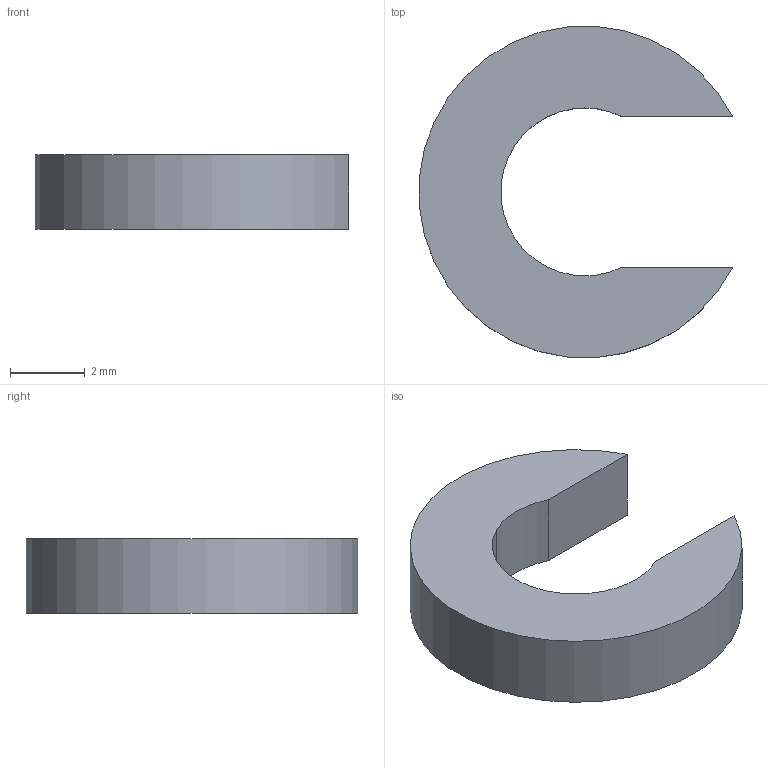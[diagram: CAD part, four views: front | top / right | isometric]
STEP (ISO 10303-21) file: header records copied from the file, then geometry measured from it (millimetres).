
FILE_DESCRIPTION(('Open CASCADE Model'),'2;1');
FILE_NAME('F09-CLIP5','2026-11-15T22:32:13',('Author'),('Open CASCADE'), 'Open CASCADE STEP processor 8.0','build123d','Unknown');
FILE_SCHEMA(('AUTOMOTIVE_DESIGN { 1 0 10303 214 1 1 1 1 }'));
Length unit declared in the file: millimetre
Products named in the file (1): F09-CLIP5
Bounding box: 8.4 x 8.88 x 2 mm (x, y, z)
Volume: 73.2 mm3; surface area: 150.8 mm2
Topology: 1 solids, 1 shells, 12 faces, 30 edges, 20 vertices
Faces by surface type: plane 8, cylinder 4
Entity records: 722 total; most frequent: CARTESIAN_POINT 163, DIRECTION 84, ORIENTED_EDGE 60, PCURVE 60, DEFINITIONAL_REPRESENTATION 60, B_SPLINE_CURVE_WITH_KNOTS 40, LINE 34, VECTOR 34
